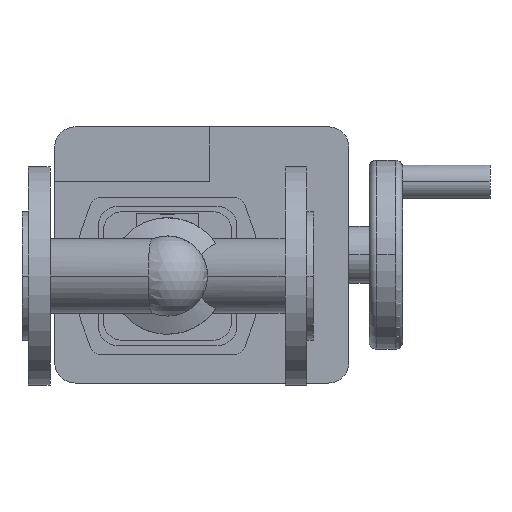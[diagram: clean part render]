
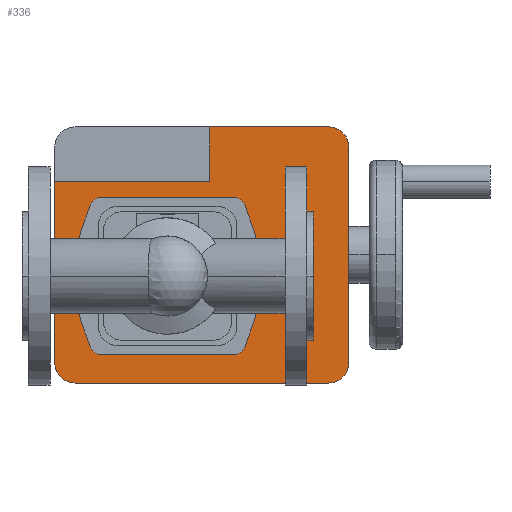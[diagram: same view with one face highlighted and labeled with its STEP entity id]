
A CAD part, front view. The second image highlights one B-rep face of the part: STEP entity #336.
In plain terms, the highlighted planar face has unit normal (0, -1, 0).
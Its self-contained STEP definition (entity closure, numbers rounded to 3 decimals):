
#336 = ADVANCED_FACE( '', ( #812, #813 ), #814, .F. );
#812 = FACE_BOUND( '', #1289, .T. );
#813 = FACE_OUTER_BOUND( '', #1290, .T. );
#814 = PLANE( '', #1291 );
#1289 = EDGE_LOOP( '', ( #2978, #2979, #2980, #2981, #2982, #2983, #2984, #2985 ) );
#1290 = EDGE_LOOP( '', ( #2986, #2987, #2988, #2989, #2990, #2991, #2992, #2993, #2994 ) );
#1291 = AXIS2_PLACEMENT_3D( '', #2995, #2996, #2997 );
#2978 = ORIENTED_EDGE( '', *, *, #3475, .T. );
#2979 = ORIENTED_EDGE( '', *, *, #3479, .T. );
#2980 = ORIENTED_EDGE( '', *, *, #3482, .T. );
#2981 = ORIENTED_EDGE( '', *, *, #3485, .T. );
#2982 = ORIENTED_EDGE( '', *, *, #3488, .T. );
#2983 = ORIENTED_EDGE( '', *, *, #3491, .T. );
#2984 = ORIENTED_EDGE( '', *, *, #3494, .T. );
#2985 = ORIENTED_EDGE( '', *, *, #3496, .T. );
#2986 = ORIENTED_EDGE( '', *, *, #3503, .T. );
#2987 = ORIENTED_EDGE( '', *, *, #3510, .F. );
#2988 = ORIENTED_EDGE( '', *, *, #3518, .F. );
#2989 = ORIENTED_EDGE( '', *, *, #3521, .F. );
#2990 = ORIENTED_EDGE( '', *, *, #3524, .F. );
#2991 = ORIENTED_EDGE( '', *, *, #3527, .F. );
#2992 = ORIENTED_EDGE( '', *, *, #3529, .F. );
#2993 = ORIENTED_EDGE( '', *, *, #3513, .F. );
#2994 = ORIENTED_EDGE( '', *, *, #3506, .T. );
#2995 = CARTESIAN_POINT( '', ( 100., 576., 0. ) );
#2996 = DIRECTION( '', ( 0., 1., 0. ) );
#2997 = DIRECTION( '', ( 0., 0., 1. ) );
#3475 = EDGE_CURVE( '', #4327, #4325, #4328, .T. );
#3479 = EDGE_CURVE( '', #4325, #4332, #4334, .T. );
#3482 = EDGE_CURVE( '', #4332, #4337, #4339, .T. );
#3485 = EDGE_CURVE( '', #4337, #4342, #4344, .T. );
#3488 = EDGE_CURVE( '', #4342, #4347, #4349, .T. );
#3491 = EDGE_CURVE( '', #4347, #4352, #4354, .T. );
#3494 = EDGE_CURVE( '', #4352, #4357, #4359, .T. );
#3496 = EDGE_CURVE( '', #4357, #4327, #4361, .T. );
#3503 = EDGE_CURVE( '', #4374, #4372, #4375, .T. );
#3506 = EDGE_CURVE( '', #4377, #4374, #4379, .T. );
#3510 = EDGE_CURVE( '', #4384, #4372, #4386, .T. );
#3513 = EDGE_CURVE( '', #4377, #4390, #4391, .T. );
#3518 = EDGE_CURVE( '', #4397, #4384, #4399, .T. );
#3521 = EDGE_CURVE( '', #4402, #4397, #4404, .T. );
#3524 = EDGE_CURVE( '', #4407, #4402, #4409, .T. );
#3527 = EDGE_CURVE( '', #4412, #4407, #4414, .T. );
#3529 = EDGE_CURVE( '', #4390, #4412, #4416, .T. );
#4325 = VERTEX_POINT( '', #5941 );
#4327 = VERTEX_POINT( '', #5944 );
#4328 = CIRCLE( '', #5945, 9. );
#4332 = VERTEX_POINT( '', #5951 );
#4334 = LINE( '', #5954, #5955 );
#4337 = VERTEX_POINT( '', #5958 );
#4339 = CIRCLE( '', #5961, 9. );
#4342 = VERTEX_POINT( '', #5964 );
#4344 = CIRCLE( '', #5967, 116. );
#4347 = VERTEX_POINT( '', #5970 );
#4349 = CIRCLE( '', #5973, 9. );
#4352 = VERTEX_POINT( '', #5977 );
#4354 = LINE( '', #5980, #5981 );
#4357 = VERTEX_POINT( '', #5984 );
#4359 = CIRCLE( '', #5987, 9. );
#4361 = CIRCLE( '', #5989, 116. );
#4372 = VERTEX_POINT( '', #6004 );
#4374 = VERTEX_POINT( '', #6007 );
#4375 = LINE( '', #6008, #6009 );
#4377 = VERTEX_POINT( '', #6012 );
#4379 = LINE( '', #6015, #6016 );
#4384 = VERTEX_POINT( '', #6023 );
#4386 = LINE( '', #6026, #6027 );
#4390 = VERTEX_POINT( '', #6032 );
#4391 = LINE( '', #6033, #6034 );
#4397 = VERTEX_POINT( '', #6042 );
#4399 = CIRCLE( '', #6045, 14. );
#4402 = VERTEX_POINT( '', #6049 );
#4404 = LINE( '', #6052, #6053 );
#4407 = VERTEX_POINT( '', #6056 );
#4409 = CIRCLE( '', #6059, 14. );
#4412 = VERTEX_POINT( '', #6063 );
#4414 = LINE( '', #6066, #6067 );
#4416 = CIRCLE( '', #6069, 14. );
#5941 = CARTESIAN_POINT( '', ( 55.216, 576., 54.2 ) );
#5944 = CARTESIAN_POINT( '', ( 47.058, 576., 49.002 ) );
#5945 = AXIS2_PLACEMENT_3D( '', #6967, #6968, #6969 );
#5951 = CARTESIAN_POINT( '', ( 144.784, 576., 54.2 ) );
#5954 = CARTESIAN_POINT( '', ( 77.608, 576., 54.2 ) );
#5955 = VECTOR( '', #6973, 1. );
#5958 = CARTESIAN_POINT( '', ( 152.942, 576., 49.002 ) );
#5961 = AXIS2_PLACEMENT_3D( '', #6978, #6979, #6980 );
#5964 = CARTESIAN_POINT( '', ( 152.942, 576., -49.002 ) );
#5967 = AXIS2_PLACEMENT_3D( '', #6985, #6986, #6987 );
#5970 = CARTESIAN_POINT( '', ( 144.784, 576., -54.2 ) );
#5973 = AXIS2_PLACEMENT_3D( '', #6992, #6993, #6994 );
#5977 = CARTESIAN_POINT( '', ( 55.216, 576., -54.2 ) );
#5980 = CARTESIAN_POINT( '', ( 100., 576., -54.2 ) );
#5981 = VECTOR( '', #6997, 1. );
#5984 = CARTESIAN_POINT( '', ( 47.058, 576., -49.002 ) );
#5987 = AXIS2_PLACEMENT_3D( '', #7002, #7003, #7004 );
#5989 = AXIS2_PLACEMENT_3D( '', #7008, #7009, #7010 );
#6004 = CARTESIAN_POINT( '', ( 22.5, 576., 65. ) );
#6007 = CARTESIAN_POINT( '', ( 129., 576., 65. ) );
#6008 = CARTESIAN_POINT( '', ( 60.75, 576., 65. ) );
#6009 = VECTOR( '', #7019, 1. );
#6012 = CARTESIAN_POINT( '', ( 129., 576., 102.5 ) );
#6015 = CARTESIAN_POINT( '', ( 129., 576., 32.5 ) );
#6016 = VECTOR( '', #7022, 1. );
#6023 = CARTESIAN_POINT( '', ( 22.5, 576., -59.5 ) );
#6026 = CARTESIAN_POINT( '', ( 22.5, 576., -59.5 ) );
#6027 = VECTOR( '', #7026, 1. );
#6032 = CARTESIAN_POINT( '', ( 210.5, 576., 102.5 ) );
#6033 = CARTESIAN_POINT( '', ( 36.5, 576., 102.5 ) );
#6034 = VECTOR( '', #7031, 1. );
#6042 = CARTESIAN_POINT( '', ( 36.5, 576., -73.5 ) );
#6045 = AXIS2_PLACEMENT_3D( '', #7038, #7039, #7040 );
#6049 = CARTESIAN_POINT( '', ( 210.5, 576., -73.5 ) );
#6052 = CARTESIAN_POINT( '', ( 210.5, 576., -73.5 ) );
#6053 = VECTOR( '', #7043, 1. );
#6056 = CARTESIAN_POINT( '', ( 224.5, 576., -59.5 ) );
#6059 = AXIS2_PLACEMENT_3D( '', #7048, #7049, #7050 );
#6063 = CARTESIAN_POINT( '', ( 224.5, 576., 88.5 ) );
#6066 = CARTESIAN_POINT( '', ( 224.5, 576., 88.5 ) );
#6067 = VECTOR( '', #7053, 1. );
#6069 = AXIS2_PLACEMENT_3D( '', #7057, #7058, #7059 );
#6967 = CARTESIAN_POINT( '', ( 55.216, 576., 45.2 ) );
#6968 = DIRECTION( '', ( 0., 1., 0. ) );
#6969 = DIRECTION( '', ( -0.906, 0., 0.422 ) );
#6973 = DIRECTION( '', ( 1., 0., 0. ) );
#6978 = CARTESIAN_POINT( '', ( 144.784, 576., 45.2 ) );
#6979 = DIRECTION( '', ( 0., 1., 0. ) );
#6980 = DIRECTION( '', ( 0., 0., 1. ) );
#6985 = CARTESIAN_POINT( '', ( 47.8, 576., 0. ) );
#6986 = DIRECTION( '', ( 0., 1., 0. ) );
#6987 = DIRECTION( '', ( 0.906, 0., 0.422 ) );
#6992 = CARTESIAN_POINT( '', ( 144.784, 576., -45.2 ) );
#6993 = DIRECTION( '', ( 0., 1., 0. ) );
#6994 = DIRECTION( '', ( 0.906, 0., -0.422 ) );
#6997 = DIRECTION( '', ( -1., 0., 0. ) );
#7002 = CARTESIAN_POINT( '', ( 55.216, 576., -45.2 ) );
#7003 = DIRECTION( '', ( 0., 1., 0. ) );
#7004 = DIRECTION( '', ( 0., 0., -1. ) );
#7008 = CARTESIAN_POINT( '', ( 152.2, 576., 0. ) );
#7009 = DIRECTION( '', ( 0., 1., 0. ) );
#7010 = DIRECTION( '', ( -0.906, 0., -0.422 ) );
#7019 = DIRECTION( '', ( -1., 0., 0. ) );
#7022 = DIRECTION( '', ( 0., 0., -1. ) );
#7026 = DIRECTION( '', ( 0., 0., 1. ) );
#7031 = DIRECTION( '', ( 1., 0., 0. ) );
#7038 = CARTESIAN_POINT( '', ( 36.5, 576., -59.5 ) );
#7039 = DIRECTION( '', ( 0., 1., 0. ) );
#7040 = DIRECTION( '', ( 0., 0., -1. ) );
#7043 = DIRECTION( '', ( -1., 0., 0. ) );
#7048 = CARTESIAN_POINT( '', ( 210.5, 576., -59.5 ) );
#7049 = DIRECTION( '', ( 0., 1., 0. ) );
#7050 = DIRECTION( '', ( 1., 0., 0. ) );
#7053 = DIRECTION( '', ( 0., 0., -1. ) );
#7057 = CARTESIAN_POINT( '', ( 210.5, 576., 88.5 ) );
#7058 = DIRECTION( '', ( 0., 1., 0. ) );
#7059 = DIRECTION( '', ( 0., 0., 1. ) );
